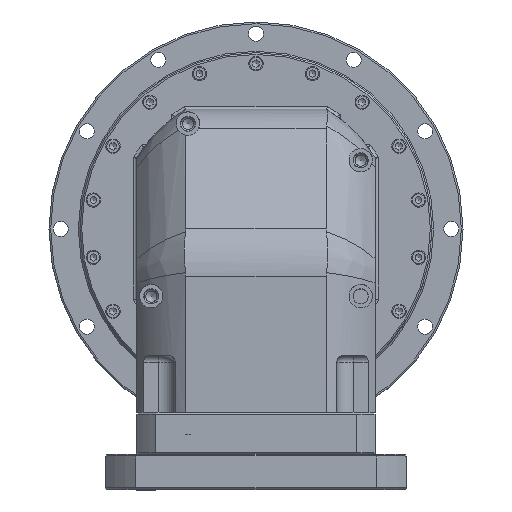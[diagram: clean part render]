
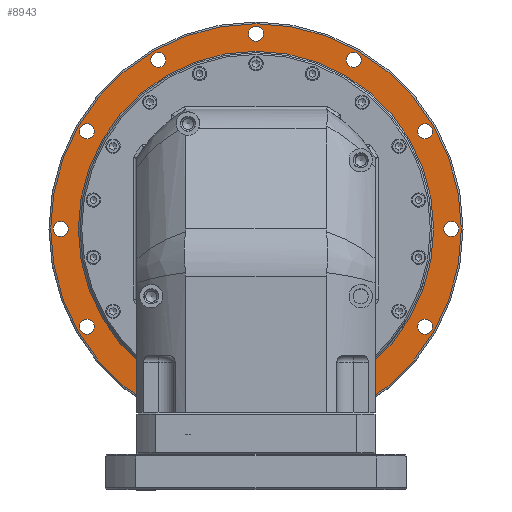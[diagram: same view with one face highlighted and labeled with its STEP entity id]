
A CAD part, top view. The second image highlights one B-rep face of the part: STEP entity #8943.
In plain terms, the highlighted planar face has unit normal (0, 0, 1).
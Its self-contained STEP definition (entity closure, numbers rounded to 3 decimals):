
#8276=CARTESIAN_POINT('',(-4.5,116.5,62.0));
#8277=VERTEX_POINT('',#8276);
#8278=CARTESIAN_POINT('',(0.0,116.5,62.0));
#8279=DIRECTION('',(0.0,0.0,-1.0));
#8280=DIRECTION('',(1.0,0.0,0.0));
#8281=AXIS2_PLACEMENT_3D('',#8278,#8279,#8280);
#8282=CIRCLE('',#8281,4.5);
#8283=EDGE_CURVE('',#8277,#8277,#8282,.T.);
#8304=CARTESIAN_POINT('',(-62.147,98.642,62.0));
#8305=VERTEX_POINT('',#8304);
#8306=CARTESIAN_POINT('',(-58.25,100.892,62.0));
#8307=DIRECTION('',(0.0,0.0,-1.0));
#8308=DIRECTION('',(0.866,0.5,0.0));
#8309=AXIS2_PLACEMENT_3D('',#8306,#8307,#8308);
#8310=CIRCLE('',#8309,4.5);
#8311=EDGE_CURVE('',#8305,#8305,#8310,.T.);
#8332=CARTESIAN_POINT('',(-103.142,54.353,62.0));
#8333=VERTEX_POINT('',#8332);
#8334=CARTESIAN_POINT('',(-100.892,58.25,62.0));
#8335=DIRECTION('',(0.0,0.0,-1.0));
#8336=DIRECTION('',(0.5,0.866,0.0));
#8337=AXIS2_PLACEMENT_3D('',#8334,#8335,#8336);
#8338=CIRCLE('',#8337,4.5);
#8339=EDGE_CURVE('',#8333,#8333,#8338,.T.);
#8360=CARTESIAN_POINT('',(-116.5,-4.5,62.0));
#8361=VERTEX_POINT('',#8360);
#8362=CARTESIAN_POINT('',(-116.5,0.,62.0));
#8363=DIRECTION('',(0.0,0.0,-1.0));
#8364=DIRECTION('',(0.0,1.0,0.0));
#8365=AXIS2_PLACEMENT_3D('',#8362,#8363,#8364);
#8366=CIRCLE('',#8365,4.5);
#8367=EDGE_CURVE('',#8361,#8361,#8366,.T.);
#8388=CARTESIAN_POINT('',(-98.642,-62.147,62.0));
#8389=VERTEX_POINT('',#8388);
#8390=CARTESIAN_POINT('',(-100.892,-58.25,62.0));
#8391=DIRECTION('',(0.0,0.0,-1.0));
#8392=DIRECTION('',(-0.5,0.866,0.0));
#8393=AXIS2_PLACEMENT_3D('',#8390,#8391,#8392);
#8394=CIRCLE('',#8393,4.5);
#8395=EDGE_CURVE('',#8389,#8389,#8394,.T.);
#8416=CARTESIAN_POINT('',(-54.353,-103.142,62.0));
#8417=VERTEX_POINT('',#8416);
#8418=CARTESIAN_POINT('',(-58.25,-100.892,62.0));
#8419=DIRECTION('',(0.0,0.0,-1.0));
#8420=DIRECTION('',(-0.866,0.5,0.0));
#8421=AXIS2_PLACEMENT_3D('',#8418,#8419,#8420);
#8422=CIRCLE('',#8421,4.5);
#8423=EDGE_CURVE('',#8417,#8417,#8422,.T.);
#8444=CARTESIAN_POINT('',(4.5,-116.5,62.0));
#8445=VERTEX_POINT('',#8444);
#8446=CARTESIAN_POINT('',(0.,-116.5,62.0));
#8447=DIRECTION('',(0.0,0.0,-1.0));
#8448=DIRECTION('',(-1.0,0.0,0.0));
#8449=AXIS2_PLACEMENT_3D('',#8446,#8447,#8448);
#8450=CIRCLE('',#8449,4.5);
#8451=EDGE_CURVE('',#8445,#8445,#8450,.T.);
#8472=CARTESIAN_POINT('',(62.147,-98.642,62.0));
#8473=VERTEX_POINT('',#8472);
#8474=CARTESIAN_POINT('',(58.25,-100.892,62.0));
#8475=DIRECTION('',(0.0,0.0,-1.0));
#8476=DIRECTION('',(-0.866,-0.5,0.0));
#8477=AXIS2_PLACEMENT_3D('',#8474,#8475,#8476);
#8478=CIRCLE('',#8477,4.5);
#8479=EDGE_CURVE('',#8473,#8473,#8478,.T.);
#8500=CARTESIAN_POINT('',(103.142,-54.353,62.0));
#8501=VERTEX_POINT('',#8500);
#8502=CARTESIAN_POINT('',(100.892,-58.25,62.0));
#8503=DIRECTION('',(0.0,0.0,-1.0));
#8504=DIRECTION('',(-0.5,-0.866,0.0));
#8505=AXIS2_PLACEMENT_3D('',#8502,#8503,#8504);
#8506=CIRCLE('',#8505,4.5);
#8507=EDGE_CURVE('',#8501,#8501,#8506,.T.);
#8528=CARTESIAN_POINT('',(116.5,4.5,62.0));
#8529=VERTEX_POINT('',#8528);
#8530=CARTESIAN_POINT('',(116.5,0.,62.0));
#8531=DIRECTION('',(0.0,0.0,-1.0));
#8532=DIRECTION('',(0.0,-1.0,0.0));
#8533=AXIS2_PLACEMENT_3D('',#8530,#8531,#8532);
#8534=CIRCLE('',#8533,4.5);
#8535=EDGE_CURVE('',#8529,#8529,#8534,.T.);
#8556=CARTESIAN_POINT('',(98.642,62.147,62.0));
#8557=VERTEX_POINT('',#8556);
#8558=CARTESIAN_POINT('',(100.892,58.25,62.0));
#8559=DIRECTION('',(0.0,0.0,-1.0));
#8560=DIRECTION('',(0.5,-0.866,0.0));
#8561=AXIS2_PLACEMENT_3D('',#8558,#8559,#8560);
#8562=CIRCLE('',#8561,4.5);
#8563=EDGE_CURVE('',#8557,#8557,#8562,.T.);
#8584=CARTESIAN_POINT('',(54.353,103.142,62.0));
#8585=VERTEX_POINT('',#8584);
#8586=CARTESIAN_POINT('',(58.25,100.892,62.0));
#8587=DIRECTION('',(0.0,0.0,-1.0));
#8588=DIRECTION('',(0.866,-0.5,0.0));
#8589=AXIS2_PLACEMENT_3D('',#8586,#8587,#8588);
#8590=CIRCLE('',#8589,4.5);
#8591=EDGE_CURVE('',#8585,#8585,#8590,.T.);
#8660=CARTESIAN_POINT('',(106.,0.,62.0));
#8661=VERTEX_POINT('',#8660);
#8662=CARTESIAN_POINT('',(0.0,0.0,62.0));
#8663=DIRECTION('',(0.0,0.0,-1.0));
#8664=DIRECTION('',(-1.0,0.0,0.0));
#8665=AXIS2_PLACEMENT_3D('',#8662,#8663,#8664);
#8666=CIRCLE('',#8665,106.);
#8667=EDGE_CURVE('',#8661,#8661,#8666,.T.);
#8888=CARTESIAN_POINT('',(0.0,0.0,62.0));
#8889=DIRECTION('',(0.0,0.0,-1.0));
#8890=DIRECTION('',(-1.0,0.0,0.0));
#8891=AXIS2_PLACEMENT_3D('',#8888,#8889,#8890);
#8892=PLANE('',#8891);
#8893=CARTESIAN_POINT('',(122.5,0.,62.0));
#8894=VERTEX_POINT('',#8893);
#8895=CARTESIAN_POINT('',(0.0,0.0,62.0));
#8896=DIRECTION('',(0.0,0.0,-1.0));
#8897=DIRECTION('',(-1.0,0.0,0.0));
#8898=AXIS2_PLACEMENT_3D('',#8895,#8896,#8897);
#8899=CIRCLE('',#8898,122.5);
#8900=EDGE_CURVE('',#8894,#8894,#8899,.T.);
#8901=ORIENTED_EDGE('',*,*,#8900,.F.);
#8902=EDGE_LOOP('',(#8901));
#8903=FACE_OUTER_BOUND('',#8902,.T.);
#8904=ORIENTED_EDGE('',*,*,#8667,.T.);
#8905=EDGE_LOOP('',(#8904));
#8906=FACE_BOUND('',#8905,.T.);
#8907=ORIENTED_EDGE('',*,*,#8283,.T.);
#8908=EDGE_LOOP('',(#8907));
#8909=FACE_BOUND('',#8908,.T.);
#8910=ORIENTED_EDGE('',*,*,#8311,.T.);
#8911=EDGE_LOOP('',(#8910));
#8912=FACE_BOUND('',#8911,.T.);
#8913=ORIENTED_EDGE('',*,*,#8339,.T.);
#8914=EDGE_LOOP('',(#8913));
#8915=FACE_BOUND('',#8914,.T.);
#8916=ORIENTED_EDGE('',*,*,#8367,.T.);
#8917=EDGE_LOOP('',(#8916));
#8918=FACE_BOUND('',#8917,.T.);
#8919=ORIENTED_EDGE('',*,*,#8395,.T.);
#8920=EDGE_LOOP('',(#8919));
#8921=FACE_BOUND('',#8920,.T.);
#8922=ORIENTED_EDGE('',*,*,#8423,.T.);
#8923=EDGE_LOOP('',(#8922));
#8924=FACE_BOUND('',#8923,.T.);
#8925=ORIENTED_EDGE('',*,*,#8451,.T.);
#8926=EDGE_LOOP('',(#8925));
#8927=FACE_BOUND('',#8926,.T.);
#8928=ORIENTED_EDGE('',*,*,#8479,.T.);
#8929=EDGE_LOOP('',(#8928));
#8930=FACE_BOUND('',#8929,.T.);
#8931=ORIENTED_EDGE('',*,*,#8507,.T.);
#8932=EDGE_LOOP('',(#8931));
#8933=FACE_BOUND('',#8932,.T.);
#8934=ORIENTED_EDGE('',*,*,#8535,.T.);
#8935=EDGE_LOOP('',(#8934));
#8936=FACE_BOUND('',#8935,.T.);
#8937=ORIENTED_EDGE('',*,*,#8563,.T.);
#8938=EDGE_LOOP('',(#8937));
#8939=FACE_BOUND('',#8938,.T.);
#8940=ORIENTED_EDGE('',*,*,#8591,.T.);
#8941=EDGE_LOOP('',(#8940));
#8942=FACE_BOUND('',#8941,.T.);
#8943=ADVANCED_FACE('',(#8903,#8906,#8909,#8912,#8915,#8918,#8921,#8924,#8927,#8930,#8933,#8936,#8939,#8942),#8892,.F.);
